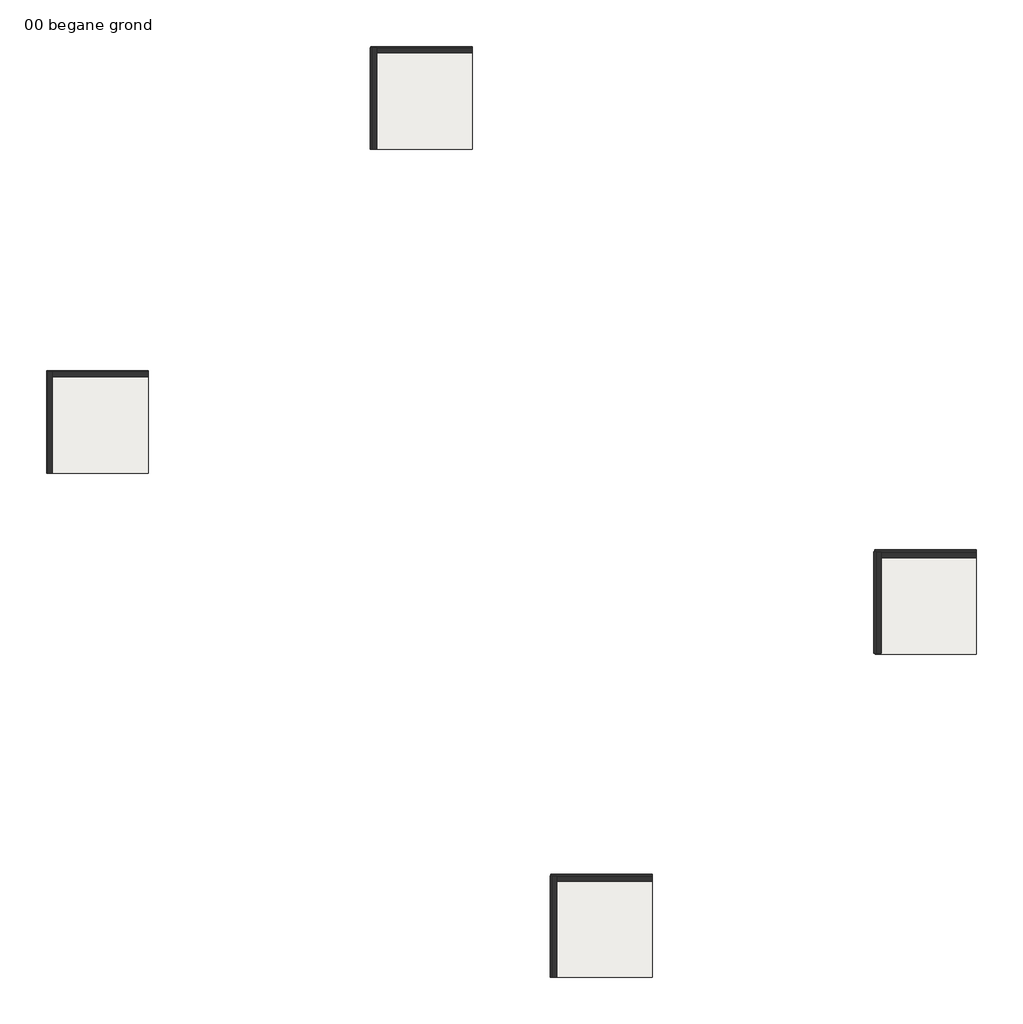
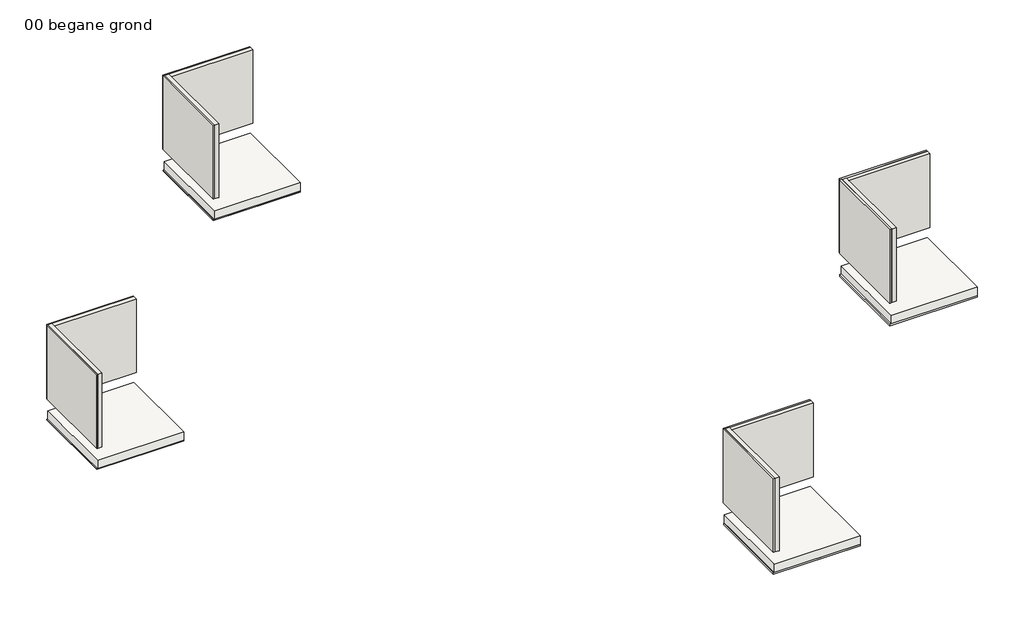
# One storey: 16 walls, 8 slabs.
"""IFC4 building model written with IfcOpenShell, lengths in millimetres."""

from ifc_helpers import new_model, si_unit, frame, origin, origin_with_axes, place, context, project, spatial, polyline, outline, extrude, faceted_brep, element, save

model = new_model("IFC4")

# Units and contexts
model_context = context("Model", 3, world=origin())
ifc_project = project(units=[si_unit("LENGTHUNIT", "METRE", prefix="MILLI")], contexts=[model_context])

# Site, building, storey
site = spatial("IfcSite", under=ifc_project)
building = spatial("IfcBuilding", under=site)
storey = spatial("IfcBuildingStorey", under=building, Name="00 begane grond", Elevation=0.0)

# Slabs
placement = place(None, origin())
element("IfcSlab", 1, ObjectType="NLRS_23_FL_Heraklith - Basis 15x2000x600mm", at=placement, inside=storey, context=model_context, shape_type="SweptSolid", body=[
    extrude(outline(polyline([(0.0, 2000.0), (2000.0, 2000.0), (2000.0, 0.0), (0.0, 0.0), (0.0, 2000.0)])), frame((0.0, 0.0, -515.0), z_axis=(0.0, 0.0, 1.0), x_axis=(1.0, 0.0, 0.0)), (0.0, 0.0, 1.0), 15.0),
])
element("IfcSlab", 2, ObjectType="NLRS_23_FL_Heraklith - Basis 25x2000x600mm", at=placement, inside=storey, context=model_context, shape_type="SweptSolid", body=[
    extrude(outline(polyline([(6358.9610307, 8358.9610307), (8363.9610307, 8358.9610307), (8363.9610307, 6363.9610307), (6358.9610307, 6363.9610307), (6358.9610307, 8358.9610307)])), frame((0.0, 0.0, -525.0), z_axis=(0.0, 0.0, 1.0), x_axis=(1.0, 0.0, 0.0)), (0.0, 0.0, 1.0), 25.0),
])
element("IfcSlab", 3, ObjectType="NLRS_23_FL_Heraklith - Basis 35x2000x600mm", at=placement, inside=storey, context=model_context, shape_type="SweptSolid", body=[
    extrude(outline(polyline([(9889.4949366, -7909.4949366), (11899.4949366, -7909.4949366), (11899.4949366, -9899.4949366), (9889.4949366, -9899.4949366), (9889.4949366, -7909.4949366)])), frame((0.0, 0.0, -535.0), z_axis=(0.0, 0.0, 1.0), x_axis=(1.0, 0.0, 0.0)), (0.0, 0.0, 1.0), 35.0),
])
element("IfcSlab", 4, ObjectType="NLRS_23_FL_Heraklith - Basis 50x2000x600mm", at=placement, inside=storey, context=model_context, shape_type="SweptSolid", body=[
    extrude(outline(polyline([(16245.9559673, -1553.0339059), (18263.4559673, -1553.0339059), (18263.4559673, -3535.5339059), (16245.9559673, -3535.5339059), (16245.9559673, -1553.0339059)])), frame((0.0, 0.0, -550.0), z_axis=(0.0, 0.0, 1.0), x_axis=(1.0, 0.0, 0.0)), (0.0, 0.0, 1.0), 50.0),
])
element("IfcSlab", 5, ObjectType="Generic 200mm", at=placement, inside=storey, context=model_context, shape_type="SweptSolid", body=[
    extrude(outline(polyline([(15.0, 0.0), (15.0, 2000.0), (2000.0, 2000.0), (2000.0, 0.0), (15.0, 0.0)])), frame((0.0, 0.0, -500.0), z_axis=(0.0, 0.0, 1.0), x_axis=(1.0, 0.0, 0.0)), (0.0, 0.0, 1.0), 200.0),
])
element("IfcSlab", 6, ObjectType="Generic 200mm", at=placement, inside=storey, context=model_context, shape_type="SweptSolid", body=[
    extrude(outline(polyline([(6378.9610307, 6363.9610307), (6378.9610307, 8363.9610307), (8363.9610307, 8363.9610307), (8363.9610307, 6363.9610307), (6378.9610307, 6363.9610307)])), frame((0.0, 0.0, -500.0), z_axis=(0.0, 0.0, 1.0), x_axis=(1.0, 0.0, 0.0)), (0.0, 0.0, 1.0), 200.0),
])
element("IfcSlab", 7, ObjectType="Generic 200mm", at=placement, inside=storey, context=model_context, shape_type="SweptSolid", body=[
    extrude(outline(polyline([(16278.4559673, -3553.0339059), (16278.4559673, -1553.0339059), (18263.4559673, -1553.0339059), (18263.4559673, -3553.0339059), (16278.4559673, -3553.0339059)])), frame((0.0, 0.0, -500.0), z_axis=(0.0, 0.0, 1.0), x_axis=(1.0, 0.0, 0.0)), (0.0, 0.0, 1.0), 200.0),
])
element("IfcSlab", 8, ObjectType="Generic 200mm", at=placement, inside=storey, context=model_context, shape_type="SweptSolid", body=[
    extrude(outline(polyline([(9914.4949366, -9899.4949366), (9914.4949366, -7899.4949366), (11899.4949366, -7899.4949366), (11899.4949366, -9899.4949366), (9914.4949366, -9899.4949366)])), frame((0.0, 0.0, -500.0), z_axis=(0.0, 0.0, 1.0), x_axis=(1.0, 0.0, 0.0)), (0.0, 0.0, 1.0), 200.0),
])

# Walls
element("IfcWall", 9, ObjectType="NLRS_42_WA_Heraklith - Basis 15x2000x600mm", at=placement, inside=storey, context=model_context, shape_type="SweptSolid", body=[
    extrude(outline(polyline([(15.0, 2000.0), (15.0, 0.0), (0.0, 0.0), (0.0, 2000.0), (15.0, 2000.0)])), origin_with_axes(), (0.0, 0.0, 1.0), 1800.0),
])
element("IfcWall", 10, ObjectType="NLRS_41_WA_Heraklith - Basis 15x2000x600mm", at=placement, inside=storey, context=model_context, shape_type="SweptSolid", body=[
    extrude(outline(polyline([(0.0, 2015.0), (2000.0, 2015.0), (2000.0, 2000.0), (0.0, 2000.0), (0.0, 2015.0)])), origin_with_axes(), (0.0, 0.0, 1.0), 1800.0),
])
element("IfcWall", 11, ObjectType="NLRS_42_WA_Heraklith - Basis 25x2000x600mm", at=placement, inside=storey, context=model_context, shape_type="SweptSolid", body=[
    extrude(outline(polyline([(6383.9610307, 8363.9610307), (6383.9610307, 6363.9610307), (6358.9610307, 6363.9610307), (6358.9610307, 8363.9610307), (6383.9610307, 8363.9610307)])), origin_with_axes(), (0.0, 0.0, 1.0), 1800.0),
])
element("IfcWall", 12, ObjectType="NLRS_41_WA_Heraklith - Basis 25x2000x600mm", at=placement, inside=storey, context=model_context, shape_type="SweptSolid", body=[
    extrude(outline(polyline([(6363.9610307, 8383.9610307), (8363.9610307, 8383.9610307), (8363.9610307, 8358.9610307), (6363.9610307, 8358.9610307), (6363.9610307, 8383.9610307)])), origin_with_axes(), (0.0, 0.0, 1.0), 1800.0),
])
element("IfcWall", 13, ObjectType="NLRS_42_WA_Heraklith - Basis 35x2000x600mm", at=placement, inside=storey, context=model_context, shape_type="SweptSolid", body=[
    extrude(outline(polyline([(9924.4949366, -7899.4949366), (9924.4949366, -9899.4949366), (9889.4949366, -9899.4949366), (9889.4949366, -7899.4949366), (9924.4949366, -7899.4949366)])), origin_with_axes(), (0.0, 0.0, 1.0), 1800.0),
])
element("IfcWall", 14, ObjectType="NLRS_41_WA_Heraklith - Basis 35x2000x600mm", at=placement, inside=storey, context=model_context, shape_type="SweptSolid", body=[
    extrude(outline(polyline([(9899.4949366, -7874.4949366), (11899.4949366, -7874.4949366), (11899.4949366, -7909.4949366), (9899.4949366, -7909.4949366), (9899.4949366, -7874.4949366)])), origin_with_axes(), (0.0, 0.0, 1.0), 1800.0),
])
element("IfcWall", 15, ObjectType="NLRS_42_WA_Heraklith - Basis 50x2000x600mm", at=placement, inside=storey, context=model_context, shape_type="SweptSolid", body=[
    extrude(outline(polyline([(16295.9559673, -1535.5339059), (16295.9559673, -3535.5339059), (16245.9559673, -3535.5339059), (16245.9559673, -1535.5339059), (16295.9559673, -1535.5339059)])), origin_with_axes(), (0.0, 0.0, 1.0), 1800.0),
])
element("IfcWall", 16, ObjectType="NLRS_41_WA_Heraklith - Basis 50x2000x600mm", at=placement, inside=storey, context=model_context, shape_type="SweptSolid", body=[
    extrude(outline(polyline([(16263.4559673, -1503.0339059), (18263.4559673, -1503.0339059), (18263.4559673, -1553.0339059), (16263.4559673, -1553.0339059), (16263.4559673, -1503.0339059)])), origin_with_axes(), (0.0, 0.0, 1.0), 1800.0),
])
element("IfcWall", 17, ObjectType="Generic_100mm", at=placement, inside=storey, context=model_context, shape_type="Brep", body=[
    faceted_brep([(115.0, 0.0, 0.0), (115.0, 1900.0, 0.0), (115.0, 2000.0, 0.0), (115.0, 2000.0, 1800.0), (115.0, 1900.0, 1800.0), (115.0, 0.0, 1800.0), (15.0, 0.0, 0.0), (15.0, 0.0, 1800.0), (15.0, 2000.0, 1800.0), (15.0, 2000.0, 0.0)], [[[0, 1, 2, 3, 4, 5]], [[6, 7, 8, 9]], [[2, 1, 0, 6, 9]], [[5, 4, 3, 8, 7]], [[0, 5, 7, 6]], [[3, 2, 9, 8]]]),
])
element("IfcWall", 18, ObjectType="Generic_100mm", at=placement, inside=storey, context=model_context, shape_type="SweptSolid", body=[
    extrude(outline(polyline([(115.0, 2000.0), (2000.0, 2000.0), (2000.0, 1900.0), (115.0, 1900.0), (115.0, 2000.0)])), origin_with_axes(), (0.0, 0.0, 1.0), 1800.0),
])
element("IfcWall", 19, ObjectType="Generic_100mm", at=placement, inside=storey, context=model_context, shape_type="Brep", body=[
    faceted_brep([(6483.9610307, 6363.9610307, 0.0), (6483.9610307, 8258.9610307, 0.0), (6483.9610307, 8358.9610307, 0.0), (6483.9610307, 8358.9610307, 1800.0), (6483.9610307, 8258.9610307, 1800.0), (6483.9610307, 6363.9610307, 1800.0), (6383.9610307, 6363.9610307, 0.0), (6383.9610307, 6363.9610307, 1800.0), (6383.9610307, 8358.9610307, 1800.0), (6383.9610307, 8358.9610307, 0.0)], [[[0, 1, 2, 3, 4, 5]], [[6, 7, 8, 9]], [[2, 1, 0, 6, 9]], [[5, 4, 3, 8, 7]], [[0, 5, 7, 6]], [[3, 2, 9, 8]]]),
])
element("IfcWall", 20, ObjectType="Generic_100mm", at=placement, inside=storey, context=model_context, shape_type="SweptSolid", body=[
    extrude(outline(polyline([(6483.9610307, 8358.9610307), (8363.9610307, 8358.9610307), (8363.9610307, 8258.9610307), (6483.9610307, 8258.9610307), (6483.9610307, 8358.9610307)])), origin_with_axes(), (0.0, 0.0, 1.0), 1800.0),
])
element("IfcWall", 21, ObjectType="Generic_100mm", at=placement, inside=storey, context=model_context, shape_type="Brep", body=[
    faceted_brep([(16395.9559673, -3535.5339059, 0.0), (16395.9559673, -1653.0339059, 0.0), (16395.9559673, -1553.0339059, 0.0), (16395.9559673, -1553.0339059, 1800.0), (16395.9559673, -1653.0339059, 1800.0), (16395.9559673, -3535.5339059, 1800.0), (16295.9559673, -3535.5339059, 0.0), (16295.9559673, -3535.5339059, 1800.0), (16295.9559673, -1553.0339059, 1800.0), (16295.9559673, -1553.0339059, 0.0)], [[[0, 1, 2, 3, 4, 5]], [[6, 7, 8, 9]], [[2, 1, 0, 6, 9]], [[5, 4, 3, 8, 7]], [[0, 5, 7, 6]], [[3, 2, 9, 8]]]),
])
element("IfcWall", 22, ObjectType="Generic_100mm", at=placement, inside=storey, context=model_context, shape_type="SweptSolid", body=[
    extrude(outline(polyline([(16395.9559673, -1553.0339059), (18263.4559673, -1553.0339059), (18263.4559673, -1653.0339059), (16395.9559673, -1653.0339059), (16395.9559673, -1553.0339059)])), origin_with_axes(), (0.0, 0.0, 1.0), 1800.0),
])
element("IfcWall", 23, ObjectType="Generic_100mm", at=placement, inside=storey, context=model_context, shape_type="Brep", body=[
    faceted_brep([(10024.4949366, -9899.4949366, 0.0), (10024.4949366, -8009.4949366, 0.0), (10024.4949366, -7909.4949366, 0.0), (10024.4949366, -7909.4949366, 1800.0), (10024.4949366, -8009.4949366, 1800.0), (10024.4949366, -9899.4949366, 1800.0), (9924.4949366, -9899.4949366, 0.0), (9924.4949366, -9899.4949366, 1800.0), (9924.4949366, -7909.4949366, 1800.0), (9924.4949366, -7909.4949366, 0.0)], [[[0, 1, 2, 3, 4, 5]], [[6, 7, 8, 9]], [[2, 1, 0, 6, 9]], [[5, 4, 3, 8, 7]], [[0, 5, 7, 6]], [[3, 2, 9, 8]]]),
])
element("IfcWall", 24, ObjectType="Generic_100mm", at=placement, inside=storey, context=model_context, shape_type="SweptSolid", body=[
    extrude(outline(polyline([(10024.4949366, -7909.4949366), (11899.4949366, -7909.4949366), (11899.4949366, -8009.4949366), (10024.4949366, -8009.4949366), (10024.4949366, -7909.4949366)])), origin_with_axes(), (0.0, 0.0, 1.0), 1800.0),
])

save(model, "model.ifc")
